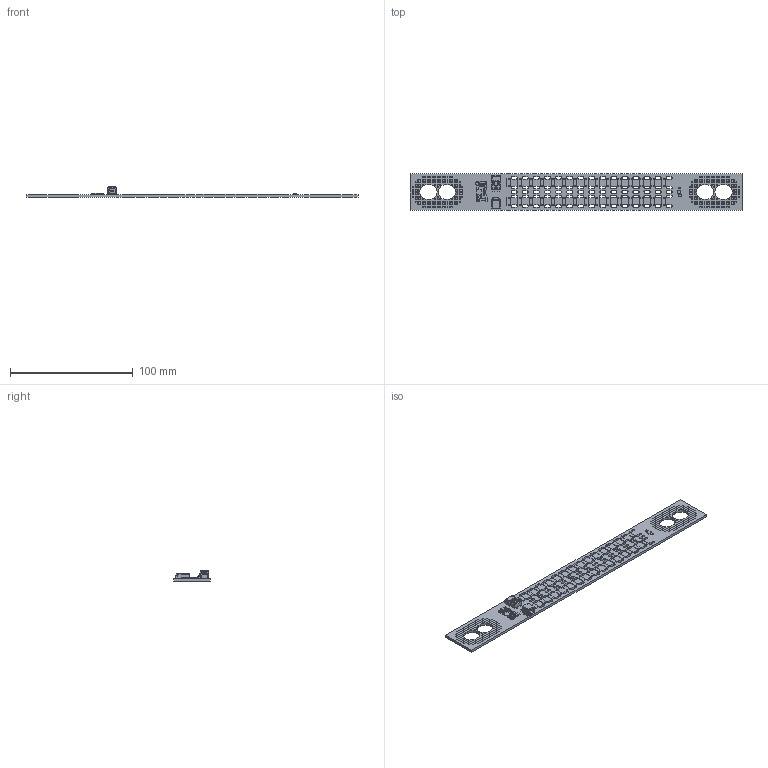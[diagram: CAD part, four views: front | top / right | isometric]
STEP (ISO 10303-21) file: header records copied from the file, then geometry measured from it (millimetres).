
FILE_DESCRIPTION(('Open CASCADE Model'),'2;1');
FILE_NAME('Open CASCADE Shape Model','2019-08-26T12:21:12',('Author'),( 'Open CASCADE'),'Open CASCADE STEP processor 6.8','Open CASCADE 6.8' ,'Unknown');
FILE_SCHEMA(('AUTOMOTIVE_DESIGN { 1 0 10303 214 1 1 1 1 }'));
Length unit declared in the file: millimetre
Products named in the file (118): PCB; Board; P2; 5023520200; Open CASCADE STEP translator 6.8 2.2.1.1; Open CASCADE STEP translator 6.8 2.2.1.2; P1; 1041880210; Open CASCADE STEP translator 6.8 2.3.1.1; Open CASCADE STEP translator 6.8 2.3.1.2; U2; MO-193AA; Open CASCADE STEP translator 6.8 2.4.1.1; Open CASCADE STEP translator 6.8 2.4.1.2; C4; 793485616; Extruded; 793485744; D4; 793482800; 793485488; Q3; 793485360; R41; 793484976; 793485104; R40; R39; R38; R37; R36; R35; R34; R33; R32; R31; R30; R29; R28; R27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
Assembly tree (249 placements, depth 4):
  PCB
    Board
    P2
      5023520200
        Open CASCADE STEP translator 6.8 2.2.1.1
        Open CASCADE STEP translator 6.8 2.2.1.2
    P1
      1041880210
        Open CASCADE STEP translator 6.8 2.3.1.1
        Open CASCADE STEP translator 6.8 2.3.1.2
    U2
      MO-193AA
        Open CASCADE STEP translator 6.8 2.4.1.1
        Open CASCADE STEP translator 6.8 2.4.1.2
    C4
      793485616  x2
        Extruded
      793485744
        Extruded
    D4
      793482800  x5
        Extruded
      793485488
        Extruded
    Q3
      793485360
        Extruded
    R41
      793484976  x2
        Extruded
      793485104
        Extruded
    R40
      793484976  x2
        Extruded
      793485104
        Extruded
    R39
      793484976  x2
        Extruded
      793485104
        Extruded
    R38
      793484976  x2
        Extruded
      793485104
        Extruded
    R37
      793484976  x2
        Extruded
      793485104
        Extruded
    R36
      793484976  x2
        Extruded
      793485104
        Extruded
    R35
      793484976  x2
        Extruded
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Bounding box: 270 x 30 x 8.45 mm (x, y, z)
Volume: 14883.4 mm3; surface area: 21436.8 mm2
Topology: 168 solids, 168 shells, 2276 faces, 5722 edges, 3844 vertices
Faces by surface type: plane 1602, cylinder 632, torus 20, bspline 16, cone 6
Full cylindrical faces by diameter (mm): 0.8 x312
Entity records: 54919 total; most frequent: CARTESIAN_POINT 10461, DIRECTION 8681, ORIENTED_EDGE 8116, EDGE_CURVE 4058, AXIS2_PLACEMENT_3D 2940, LINE 2801, VECTOR 2801, VERTEX_POINT 2660
